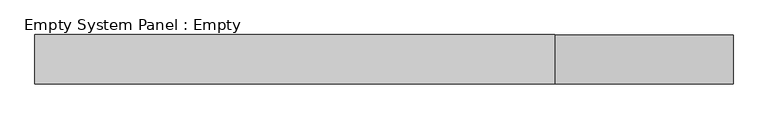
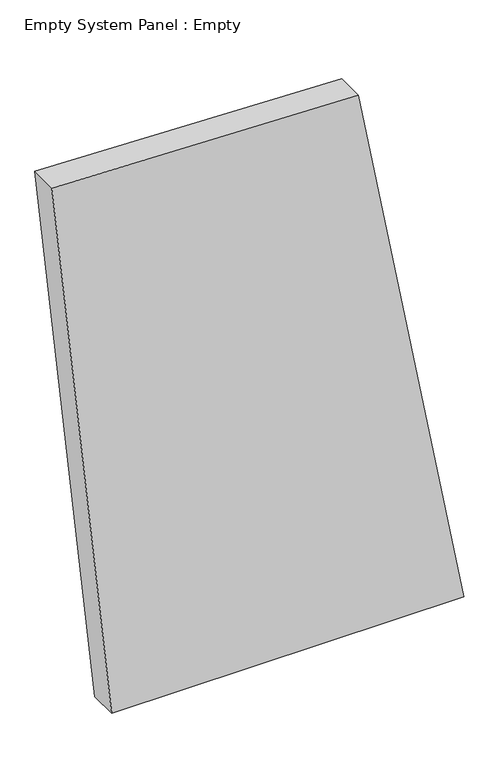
"""IFC4 building model written with IfcOpenShell, lengths in millimetres: plate geometry, Empty System Panel : Empty."""

from ifc_helpers import new_model, si_unit, frame, origin, place, context, project, spatial, polyline, outline, extrude, source, transform, mapped, element, save


def empty_system_panel_empty_948ce073(model_context):
    return source(origin(), model_context, "Body", "SweptSolid", [
        extrude(outline(polyline([(0.0, -509.0056839), (0.0, 717.6965425), (1974.0849557, 350.7714115), (2007.072854, -717.6965425), (0.0, -509.0056839)])), frame((0.0, -50.8, 0.0), z_axis=(0.0, 1.0, 0.0), x_axis=(0.0, 0.0, 1.0)), (0.0, 0.0, 1.0), 101.6),
    ])


if __name__ == "__main__":
    model = new_model("IFC4")
    model_context = context("Model", 3, world=origin())
    ifc_project = project(units=[si_unit("LENGTHUNIT", "METRE", prefix="MILLI")], contexts=[model_context])
    site = spatial("IfcSite", under=ifc_project)
    building = spatial("IfcBuilding", under=site)
    placement = place(None, origin())
    empty_system_panel_empty_shape = empty_system_panel_empty_948ce073(model_context)
    element("IfcPlate", 1, ObjectType="Empty System Panel : Empty", at=placement, inside=building, context=model_context, shape_type="MappedRepresentation", body=[
        mapped(empty_system_panel_empty_shape, transform((0.0, 0.0, 0.0), x_axis=(1.0, 0.0, 0.0), y_axis=(0.0, 1.0, 0.0), z_axis=(0.0, 0.0, 1.0))),
    ])
    save(model, "model.ifc")
